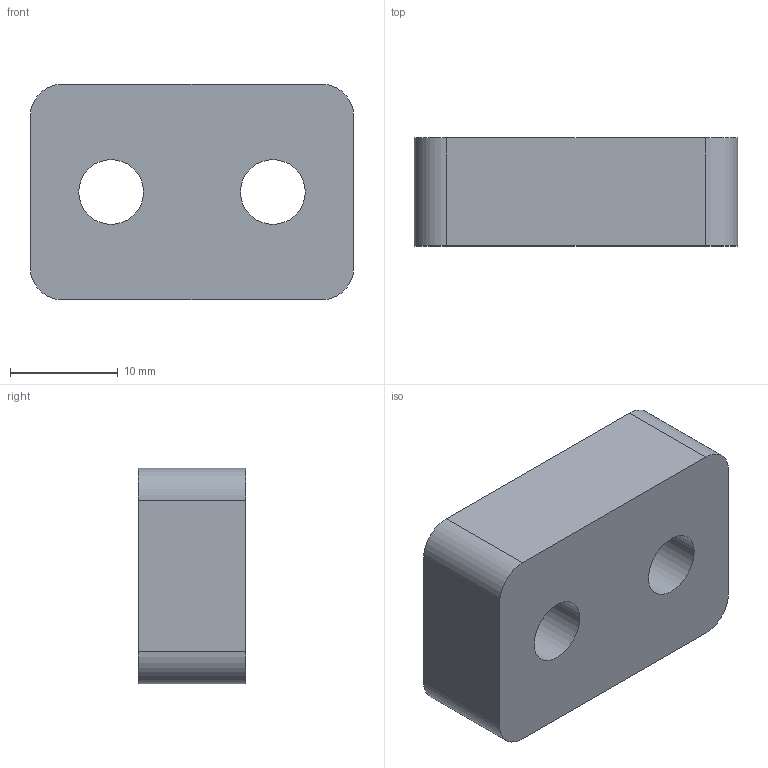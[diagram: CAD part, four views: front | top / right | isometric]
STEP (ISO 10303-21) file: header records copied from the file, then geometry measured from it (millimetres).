
FILE_DESCRIPTION((''),'2;1');
FILE_NAME('0000208879','2024-02-23T12:31:59',('Wyndorps'),(''),'CREO PARAMETRIC BY PTC INC, 2022484','CREO PARAMETRIC BY PTC INC, 2022484','');
FILE_SCHEMA(('CONFIG_CONTROL_DESIGN'));
Length unit declared in the file: millimetre
Products named in the file (1): 0000208879
Bounding box: 30 x 10 x 20 mm (x, y, z)
Volume: 5357.3 mm3; surface area: 2396.9 mm2
Topology: 1 solids, 1 shells, 14 faces, 36 edges, 24 vertices
Faces by surface type: cylinder 8, plane 6
Entity records: 482 total; most frequent: DIRECTION 80, CARTESIAN_POINT 74, ORIENTED_EDGE 72, EDGE_CURVE 36, AXIS2_PLACEMENT_3D 30, VERTEX_POINT 24, VECTOR 20, LINE 20
